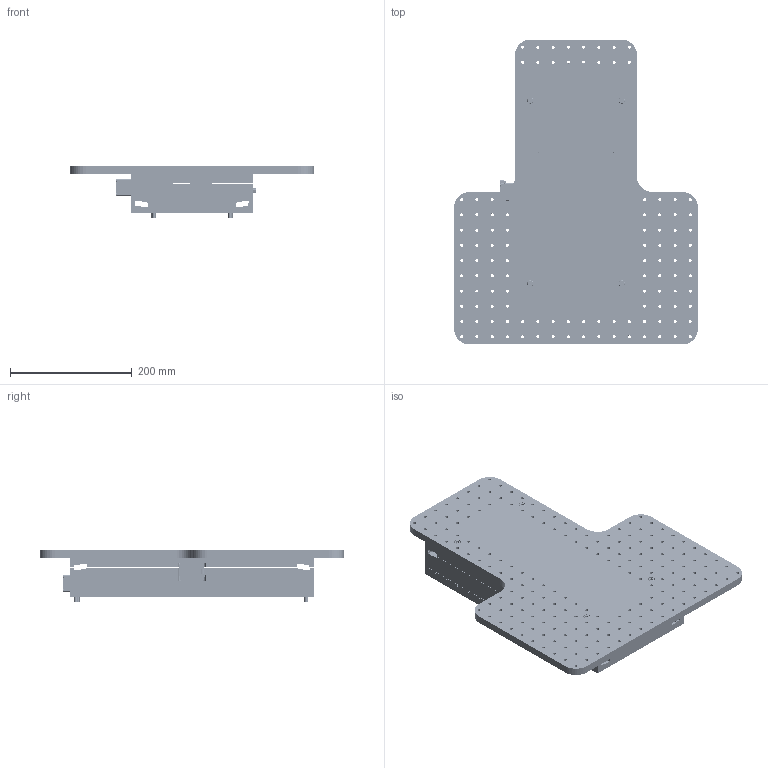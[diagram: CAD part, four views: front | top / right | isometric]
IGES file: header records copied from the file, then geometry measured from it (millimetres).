
Start section: SolidWorks IGES file using analytic representation for surfaces
Global section: file name: C:\1-DATA-FILES-FOR-PROJECTS\2022-PRODUCT-REFERENCE-MODELS\1-STAGE-REFERENCE-MODELS\ZDP50T\2-ZDP50T-REFERENCE-PARTS\ZDP50T-REFERENCE-IGES.IGS; native system: SolidWorks 2019; preprocessor: SolidWorks 2019; author: jwilliams; date: 220304.134904; units: inch
Bounding box: 400 x 500 x 85.33 mm (x, y, z)
Surface area: 1045398 mm2 (no closed solid volume)
Topology: 0 solids, 0 shells, 4115 faces, 52763 edges, 51809 vertices
Faces by surface type: revolution 2799, bspline 1316
